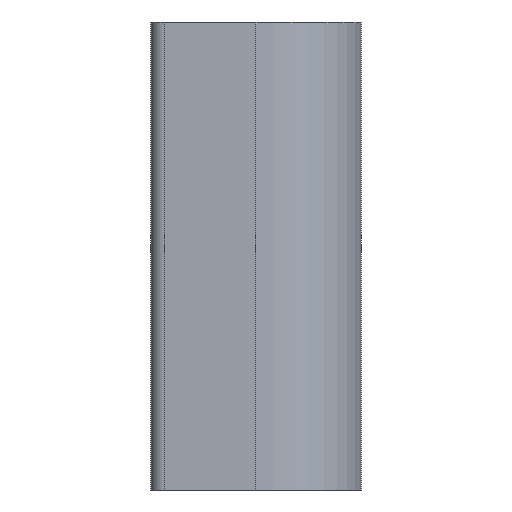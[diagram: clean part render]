
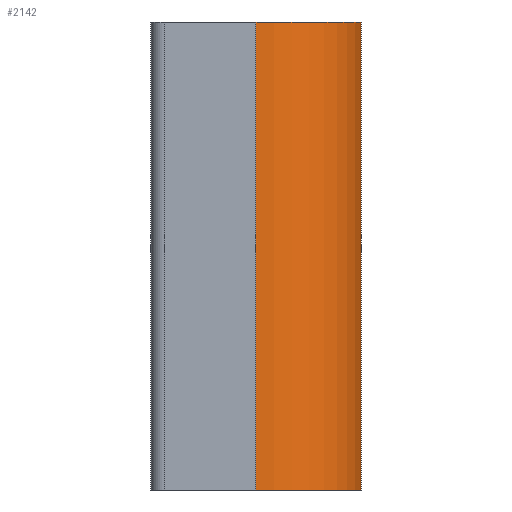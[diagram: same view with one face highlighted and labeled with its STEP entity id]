
A CAD part, front view. The second image highlights one B-rep face of the part: STEP entity #2142.
In plain terms, the highlighted cylindrical face has radius 22.5 mm (diameter 45 mm), a partial arc.
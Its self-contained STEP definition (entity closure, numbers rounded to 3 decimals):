
#41 = ORIENTED_EDGE ( 'NONE', *, *, #3747, .T. ) ;
#57 = ORIENTED_EDGE ( 'NONE', *, *, #2239, .F. ) ;
#155 = CARTESIAN_POINT ( 'NONE',  ( 22.5, 0., -100. ) ) ;
#158 = ORIENTED_EDGE ( 'NONE', *, *, #3575, .T. ) ;
#369 = DIRECTION ( 'NONE',  ( -1., 0., 0. ) ) ;
#410 = AXIS2_PLACEMENT_3D ( 'NONE', #896, #1742, #2346 ) ;
#515 = VERTEX_POINT ( 'NONE', #1720 ) ;
#721 = AXIS2_PLACEMENT_3D ( 'NONE', #945, #2975, #369 ) ;
#794 = LINE ( 'NONE', #155, #2440 ) ;
#859 = DIRECTION ( 'NONE',  ( 0., 0., -1. ) ) ;
#896 = CARTESIAN_POINT ( 'NONE',  ( 0., 0., -100. ) ) ;
#945 = CARTESIAN_POINT ( 'NONE',  ( 0., 0., 0. ) ) ;
#1174 = CYLINDRICAL_SURFACE ( 'NONE', #410, 22.5 ) ;
#1309 = EDGE_LOOP ( 'NONE', ( #41, #1968, #57, #158 ) ) ;
#1598 = CARTESIAN_POINT ( 'NONE',  ( 0., -22.5, -100. ) ) ;
#1690 = CARTESIAN_POINT ( 'NONE',  ( 0., -22.5, 0. ) ) ;
#1720 = CARTESIAN_POINT ( 'NONE',  ( 22.5, 0., 0. ) ) ;
#1742 = DIRECTION ( 'NONE',  ( 0., 0., 1. ) ) ;
#1822 = CARTESIAN_POINT ( 'NONE',  ( 0., -22.5, -100. ) ) ;
#1900 = VERTEX_POINT ( 'NONE', #2046 ) ;
#1968 = ORIENTED_EDGE ( 'NONE', *, *, #2045, .F. ) ;
#2045 = EDGE_CURVE ( 'NONE', #3015, #3281, #2478, .T. ) ;
#2046 = CARTESIAN_POINT ( 'NONE',  ( 22.5, 0., -100. ) ) ;
#2142 = ADVANCED_FACE ( 'NONE', ( #3484 ), #1174, .T. ) ;
#2198 = DIRECTION ( 'NONE',  ( -1., 0., 0. ) ) ;
#2239 = EDGE_CURVE ( 'NONE', #1900, #3015, #2477, .T. ) ;
#2346 = DIRECTION ( 'NONE',  ( 1., 0., 0. ) ) ;
#2440 = VECTOR ( 'NONE', #2489, 1000. ) ;
#2477 = CIRCLE ( 'NONE', #2492, 22.5 ) ;
#2478 = LINE ( 'NONE', #1598, #3200 ) ;
#2489 = DIRECTION ( 'NONE',  ( 0., 0., 1. ) ) ;
#2492 = AXIS2_PLACEMENT_3D ( 'NONE', #3168, #859, #2198 ) ;
#2975 = DIRECTION ( 'NONE',  ( 0., 0., -1. ) ) ;
#3015 = VERTEX_POINT ( 'NONE', #1822 ) ;
#3168 = CARTESIAN_POINT ( 'NONE',  ( 0., 0., -100. ) ) ;
#3200 = VECTOR ( 'NONE', #3619, 1000. ) ;
#3281 = VERTEX_POINT ( 'NONE', #1690 ) ;
#3484 = FACE_OUTER_BOUND ( 'NONE', #1309, .T. ) ;
#3575 = EDGE_CURVE ( 'NONE', #1900, #515, #794, .T. ) ;
#3619 = DIRECTION ( 'NONE',  ( 0., 0., 1. ) ) ;
#3706 = CIRCLE ( 'NONE', #721, 22.5 ) ;
#3747 = EDGE_CURVE ( 'NONE', #515, #3281, #3706, .T. ) ;
